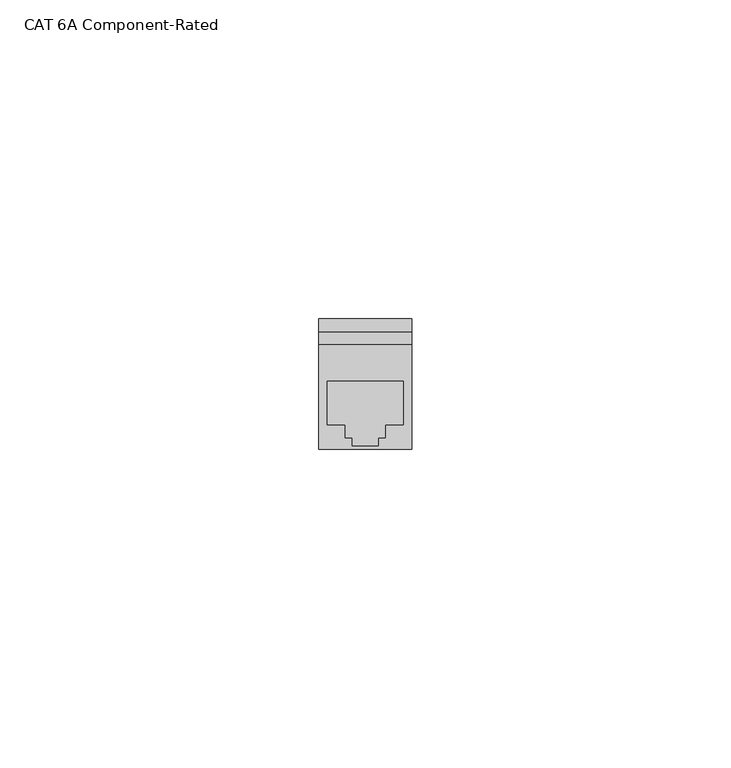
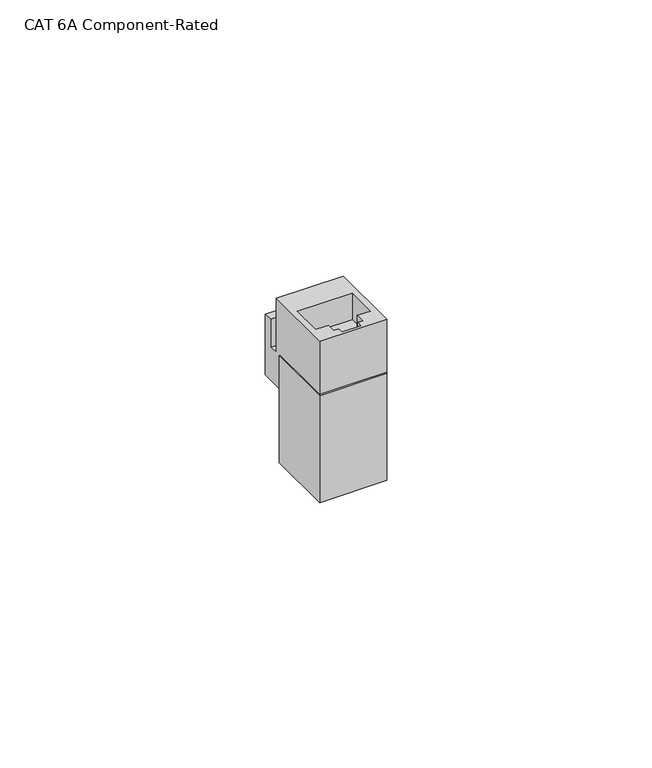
"""IFC4 building model written with IfcOpenShell, lengths in millimetres: electric appliance geometry, Data_Device-Network-Leviton-QuickPort-Connector-Copper : CAT 6A Component-Rated."""

from ifc_helpers import new_model, si_unit, frame, origin, place, context, project, spatial, polyline, outline, extrude, faceted_brep, source, transform, mapped, element, save


def cat_6a_component_rated_67d5ba4e(model_context):
    return source(origin(), model_context, "Body", "SolidModel", [
        extrude(outline(polyline([(7.3025, 15.113), (7.3025, 0.0), (-7.3025, 0.0), (-7.3025, 15.113), (7.3025, 15.113)])), frame((0.0, 0.0, -37.084), z_axis=(0.0, 0.0, 1.0), x_axis=(1.0, 0.0, 0.0)), (0.0, 0.0, 1.0), 24.638),
        faceted_brep([(7.3025, 16.383, 0.0254), (-7.3025, 16.383, 0.0254), (-7.3025, 0.0, 0.0254), (7.3025, 0.0, 0.0254), (-5.9563, 10.6426, 0.0254), (5.9563, 10.6426, 0.0254), (5.9563, 3.81, 0.0254), (3.1496, 3.81, 0.0254), (3.1496, 1.8288, 0.0254), (2.032, 1.8288, 0.0254), (2.032, 0.5588, 0.0254), (-2.032, 0.5588, 0.0254), (-2.032, 1.8288, 0.0254), (-3.1496, 1.8288, 0.0254), (-3.1496, 3.81, 0.0254), (-5.9563, 3.81, 0.0254), (7.3025, 0.0, -12.446), (-7.3025, 0.0, -12.446), (-7.3025, 15.113, -12.446), (7.3025, 15.113, -12.446), (7.3025, 16.383, -12.446), (-7.3025, 16.383, -12.446), (-7.3025, 18.415, -12.446), (-7.3025, 18.415, -6.096), (-7.3025, 20.447, -6.096), (-7.3025, 20.447, -20.066), (-7.3025, 15.113, -20.066), (7.3025, 15.113, -20.066), (7.3025, 20.447, -20.066), (7.3025, 20.447, -6.096), (7.3025, 18.415, -6.096), (7.3025, 18.415, -12.446), (5.9563, 10.6426, -6.0706), (-5.9563, 10.6426, -6.0706), (-5.9563, 3.81, -6.0706), (-3.1496, 3.81, -6.0706), (-3.1496, 1.8288, -6.0706), (-2.032, 1.8288, -6.0706), (-2.032, 0.5588, -6.0706), (2.032, 0.5588, -6.0706), (2.032, 1.8288, -6.0706), (3.1496, 1.8288, -6.0706), (3.1496, 3.81, -6.0706), (5.9563, 3.81, -6.0706)], [[[0, 1, 2, 3], [4, 5, 6, 7, 8, 9, 10, 11, 12, 13, 14, 15]], [[16, 17, 18, 19]], [[1, 0, 20, 21]], [[2, 1, 21, 22, 23, 24, 25, 26, 18, 17]], [[3, 2, 17, 16]], [[0, 3, 16, 19, 27, 28, 29, 30, 31, 20]], [[31, 30, 23, 22]], [[31, 22, 21, 20]], [[27, 19, 18, 26]], [[28, 27, 26, 25]], [[29, 28, 25, 24]], [[30, 29, 24, 23]], [[32, 33, 34, 35, 36, 37, 38, 39, 40, 41, 42, 43]], [[33, 32, 5, 4]], [[34, 33, 4, 15]], [[35, 34, 15, 14]], [[36, 35, 14, 13]], [[37, 36, 13, 12]], [[38, 37, 12, 11]], [[39, 38, 11, 10]], [[40, 39, 10, 9]], [[41, 40, 9, 8]], [[42, 41, 8, 7]], [[43, 42, 7, 6]], [[32, 43, 6, 5]]]),
    ])


if __name__ == "__main__":
    model = new_model("IFC4")
    model_context = context("Model", 3, world=origin())
    ifc_project = project(units=[si_unit("LENGTHUNIT", "METRE", prefix="MILLI")], contexts=[model_context])
    site = spatial("IfcSite", under=ifc_project)
    building = spatial("IfcBuilding", under=site)
    placement = place(None, origin())
    cat_6a_component_rated_shape = cat_6a_component_rated_67d5ba4e(model_context)
    element("IfcElectricAppliance", 1, ObjectType="Data_Device-Network-Leviton-QuickPort-Connector-Copper : CAT 6A Component-Rated", at=placement, inside=building, context=model_context, shape_type="MappedRepresentation", body=[
        mapped(cat_6a_component_rated_shape, transform((0.0, 0.0, 0.0), x_axis=(1.0, 0.0, 0.0), y_axis=(0.0, 1.0, 0.0), z_axis=(0.0, 0.0, 1.0))),
    ])
    save(model, "model.ifc")
